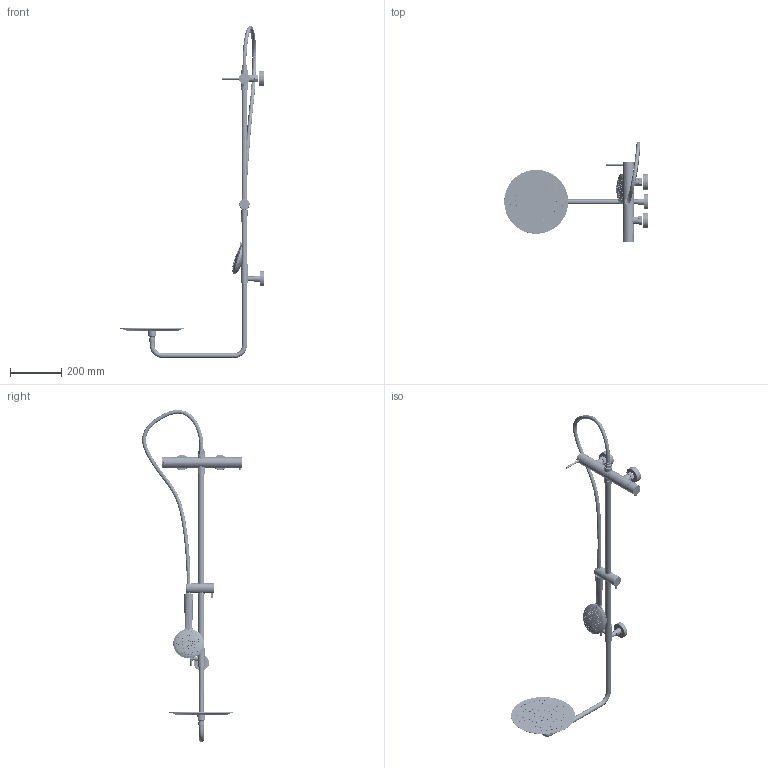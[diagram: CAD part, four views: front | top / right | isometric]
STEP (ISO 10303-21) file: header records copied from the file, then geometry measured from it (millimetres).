
FILE_DESCRIPTION((''),'2;1');
FILE_NAME('1306800A_ASM','2022-06-02T',('RD001'),(''),'PRO/ENGINEER BY PARAMETRIC TECHNOLOGY CORPORATION, 2010280','PRO/ENGINEER BY PARAMETRIC TECHNOLOGY CORPORATION, 2010280','');
FILE_SCHEMA(('CONFIG_CONTROL_DESIGN'));
Length unit declared in the file: millimetre
Products named in the file (63): 513068-01-222A_AF0_1; 513068-01-522A_1; 513068-01-322_1; 513068-01-123A_ASM_1_ASM; 512052-01-422A_1; 513068-0100A_ASM_1_ASM; 61803500_1; 60722841_1_ASM; 7609309-0100_1; 7609309-0200_1; 61800541_1; 61614941_1; 7609114-100_1; 7609006-0200_1; 518084-0322_1; 61300700_1; 61301300_1; 7654000-1100_1; 65400099_ASM_1_ASM; 61701500_2; 7656057-0100_1; 61316312_2; 7656038-0300_2; 7656038-0400_2; 7656038-0641_2; 7656057-0200_1; 7656069-0600_1; MANIFOLD_SOLID_BREP_81089; MANIFOLD_SOLID_BREP_82137; MANIFOLD_SOLID_BREP_84549; 60202600_1_ASM; 61626141_1_ASM; 65605712_ASM_2_ASM; HS0150501_3_1; HS0150502_2_1; MT0120104_5_1; RH0160302_1_1; MH0160301_AF0_2_1; HS0160311_3_1; HS0170505_3_1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
Assembly tree (66 placements, depth 7):
  1306800A_ASM
    1306800A-F04001_ASM_2_ASM
      513068-0100A_ASM_1_ASM
        513068-01-123A_ASM_1_ASM
          513068-01-222A_AF0_1
          513068-01-522A_1
          513068-01-322_1
        512052-01-422A_1  x2
      61803500_1
      60722841_1_ASM
      7609309-0100_1
      7609309-0200_1
      61800541_1
      61614941_1
      7609114-100_1
      7609006-0200_1
      518084-0322_1
      61300700_1  x2
      61301300_1  x2
      65400099_ASM_1_ASM
        7654000-1100_1  x2
      61701500_2
      65605712_ASM_2_ASM
        7656057-0100_1
        61316312_2
        7656038-0300_2
        7656038-0400_2
        7656038-0641_2
        7656057-0200_1
        7656069-0600_1
        60202600_1_ASM
          MANIFOLD_SOLID_BREP_81089
          MANIFOLD_SOLID_BREP_82137
          MANIFOLD_SOLID_BREP_84549
        61626141_1_ASM
      60111200_ASM_1_ASM
        HS0150500_ASM_6_ASM_1_ASM
          HS0150501_3_1
          HS0150502_2_1
          MT0120104_5_1
          RH0160302_1_1
          MH0160301_AF0_2_1
          HS0160311_3_1
          HS0170505_3_1
          HS0150504_ASM_2_ASM_1_ASM
            HS0150503_3_1
            HS0150504_3_ASM_1_ASM
              MANIFOLD_SOLID_BREP_144091_1
              MANIFOLD_SOLID_BREP_169668_1
          HS0130308_3_1
          RQ0925178_AF3_4_1
          HS0130309_4_1
          MS0100510_2_1
          HS0170511_2_1
          HS0150505_7_1
      60188200_1
      65403600_ASM_2_ASM
        7654036-0322_2
        7654036-0100_2
        7654036-0441_2
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Bounding box: 560.5 x 389.11 x 1295.64 mm (x, y, z)
Volume: 1283596.7 mm3; surface area: 702697.8 mm2
Topology: 53 solids, 53 shells, 5978 faces, 15532 edges, 10093 vertices
Faces by surface type: cylinder 1503, plane 1358, cone 1294, torus 891, bspline 822, sphere 66, revolution 41, extrusion 3
Entity records: 307158 total; most frequent: CARTESIAN_POINT 166191, ORIENTED_EDGE 30316, DIRECTION 27674, EDGE_CURVE 15158, AXIS2_PLACEMENT_3D 11553, VERTEX_POINT 9891, EDGE_LOOP 7113, CIRCLE 6361
